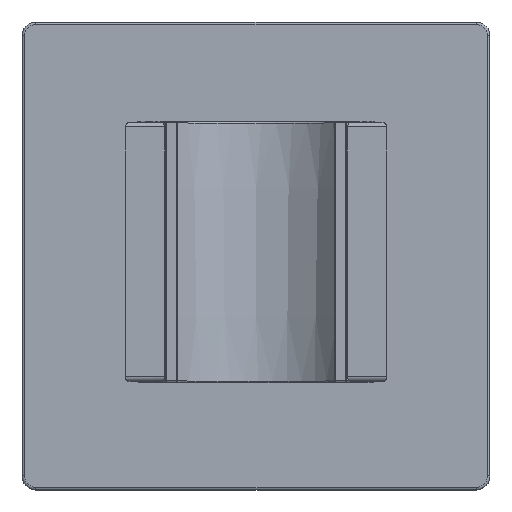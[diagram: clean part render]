
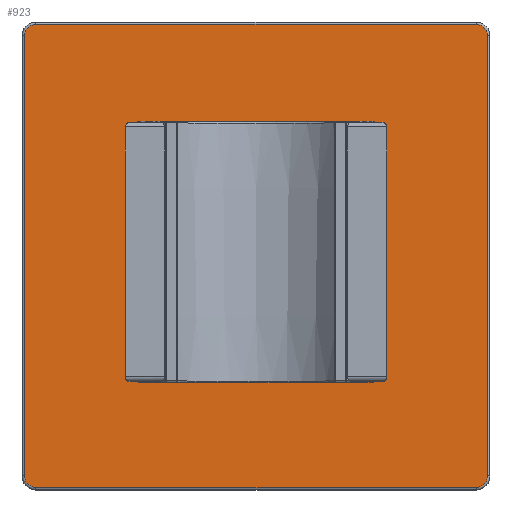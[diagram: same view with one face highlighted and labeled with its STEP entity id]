
A CAD part, top view. The second image highlights one B-rep face of the part: STEP entity #923.
In plain terms, the highlighted planar face has unit normal (0, 0, 1).
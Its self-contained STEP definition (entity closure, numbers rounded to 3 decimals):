
#93=FACE_BOUND('',#161,.T.);
#95=FACE_OUTER_BOUND('',#160,.T.);
#160=EDGE_LOOP('',(#632,#633,#634,#635,#636,#637,#638,#639));
#161=EDGE_LOOP('',(#640,#641,#642,#643,#644,#645,#646,#647));
#229=CIRCLE('',#1008,1.25);
#230=CIRCLE('',#1009,1.25);
#231=CIRCLE('',#1010,1.25);
#232=CIRCLE('',#1011,1.25);
#233=CIRCLE('',#1012,0.5);
#234=CIRCLE('',#1013,0.5);
#235=CIRCLE('',#1014,0.5);
#236=CIRCLE('',#1015,0.5);
#272=LINE('',#1408,#340);
#273=LINE('',#1412,#341);
#274=LINE('',#1416,#342);
#275=LINE('',#1420,#343);
#276=LINE('',#1424,#344);
#277=LINE('',#1428,#345);
#278=LINE('',#1432,#346);
#279=LINE('',#1436,#347);
#340=VECTOR('',#1125,10.);
#341=VECTOR('',#1128,10.);
#342=VECTOR('',#1131,10.);
#343=VECTOR('',#1134,10.);
#344=VECTOR('',#1137,10.);
#345=VECTOR('',#1140,10.);
#346=VECTOR('',#1143,10.);
#347=VECTOR('',#1146,10.);
#412=VERTEX_POINT('',#1406);
#413=VERTEX_POINT('',#1407);
#414=VERTEX_POINT('',#1409);
#415=VERTEX_POINT('',#1411);
#416=VERTEX_POINT('',#1413);
#417=VERTEX_POINT('',#1415);
#418=VERTEX_POINT('',#1417);
#419=VERTEX_POINT('',#1419);
#420=VERTEX_POINT('',#1422);
#421=VERTEX_POINT('',#1423);
#422=VERTEX_POINT('',#1425);
#423=VERTEX_POINT('',#1427);
#424=VERTEX_POINT('',#1429);
#425=VERTEX_POINT('',#1431);
#426=VERTEX_POINT('',#1433);
#427=VERTEX_POINT('',#1435);
#492=EDGE_CURVE('',#412,#413,#272,.T.);
#493=EDGE_CURVE('',#413,#414,#229,.T.);
#494=EDGE_CURVE('',#414,#415,#273,.T.);
#495=EDGE_CURVE('',#415,#416,#230,.T.);
#496=EDGE_CURVE('',#416,#417,#274,.T.);
#497=EDGE_CURVE('',#417,#418,#231,.T.);
#498=EDGE_CURVE('',#418,#419,#275,.T.);
#499=EDGE_CURVE('',#419,#412,#232,.T.);
#500=EDGE_CURVE('',#420,#421,#276,.T.);
#501=EDGE_CURVE('',#422,#420,#233,.T.);
#502=EDGE_CURVE('',#423,#422,#277,.T.);
#503=EDGE_CURVE('',#424,#423,#234,.T.);
#504=EDGE_CURVE('',#425,#424,#278,.T.);
#505=EDGE_CURVE('',#426,#425,#235,.T.);
#506=EDGE_CURVE('',#427,#426,#279,.T.);
#507=EDGE_CURVE('',#421,#427,#236,.T.);
#632=ORIENTED_EDGE('',*,*,#492,.T.);
#633=ORIENTED_EDGE('',*,*,#493,.T.);
#634=ORIENTED_EDGE('',*,*,#494,.T.);
#635=ORIENTED_EDGE('',*,*,#495,.T.);
#636=ORIENTED_EDGE('',*,*,#496,.T.);
#637=ORIENTED_EDGE('',*,*,#497,.T.);
#638=ORIENTED_EDGE('',*,*,#498,.T.);
#639=ORIENTED_EDGE('',*,*,#499,.T.);
#640=ORIENTED_EDGE('',*,*,#500,.F.);
#641=ORIENTED_EDGE('',*,*,#501,.F.);
#642=ORIENTED_EDGE('',*,*,#502,.F.);
#643=ORIENTED_EDGE('',*,*,#503,.F.);
#644=ORIENTED_EDGE('',*,*,#504,.F.);
#645=ORIENTED_EDGE('',*,*,#505,.F.);
#646=ORIENTED_EDGE('',*,*,#506,.F.);
#647=ORIENTED_EDGE('',*,*,#507,.F.);
#905=PLANE('',#1007);
#923=ADVANCED_FACE('',(#95,#93),#905,.T.);
#1007=AXIS2_PLACEMENT_3D('',#1405,#1123,#1124);
#1008=AXIS2_PLACEMENT_3D('',#1410,#1126,#1127);
#1009=AXIS2_PLACEMENT_3D('',#1414,#1129,#1130);
#1010=AXIS2_PLACEMENT_3D('',#1418,#1132,#1133);
#1011=AXIS2_PLACEMENT_3D('',#1421,#1135,#1136);
#1012=AXIS2_PLACEMENT_3D('',#1426,#1138,#1139);
#1013=AXIS2_PLACEMENT_3D('',#1430,#1141,#1142);
#1014=AXIS2_PLACEMENT_3D('',#1434,#1144,#1145);
#1015=AXIS2_PLACEMENT_3D('',#1437,#1147,#1148);
#1123=DIRECTION('center_axis',(0.,0.,1.));
#1124=DIRECTION('ref_axis',(1.,0.,0.));
#1125=DIRECTION('',(0.,-1.,0.));
#1126=DIRECTION('center_axis',(0.,0.,1.));
#1127=DIRECTION('ref_axis',(0.,-1.,0.));
#1128=DIRECTION('',(1.,0.,0.));
#1129=DIRECTION('center_axis',(0.,0.,1.));
#1130=DIRECTION('ref_axis',(1.,0.,0.));
#1131=DIRECTION('',(0.,1.,0.));
#1132=DIRECTION('center_axis',(0.,0.,1.));
#1133=DIRECTION('ref_axis',(0.,1.,0.));
#1134=DIRECTION('',(-1.,0.,0.));
#1135=DIRECTION('center_axis',(0.,0.,1.));
#1136=DIRECTION('ref_axis',(-1.,0.,0.));
#1137=DIRECTION('',(1.,0.,0.));
#1138=DIRECTION('center_axis',(0.,0.,
1.));
#1139=DIRECTION('ref_axis',(0.,-1.,0.));
#1140=DIRECTION('',(0.,-1.,0.));
#1141=DIRECTION('center_axis',(0.,0.,
1.));
#1142=DIRECTION('ref_axis',(-1.,0.,0.));
#1143=DIRECTION('',(-1.,0.,0.));
#1144=DIRECTION('center_axis',(0.,0.,
1.));
#1145=DIRECTION('ref_axis',(0.,1.,0.));
#1146=DIRECTION('',(0.,1.,0.));
#1147=DIRECTION('center_axis',(0.,0.,1.));
#1148=DIRECTION('ref_axis',(1.,0.,0.));
#1405=CARTESIAN_POINT('Origin',(0.,-27.775,8.9));
#1406=CARTESIAN_POINT('',(-25.,23.75,8.9));
#1407=CARTESIAN_POINT('',(-25.,-23.75,8.9));
#1408=CARTESIAN_POINT('',(-25.,23.75,8.9));
#1409=CARTESIAN_POINT('',(-23.75,-25.,8.9));
#1410=CARTESIAN_POINT('Origin',(-23.75,-23.75,8.9));
#1411=CARTESIAN_POINT('',(23.75,-25.,8.9));
#1412=CARTESIAN_POINT('',(-23.75,-25.,8.9));
#1413=CARTESIAN_POINT('',(25.,-23.75,8.9));
#1414=CARTESIAN_POINT('Origin',(23.75,-23.75,8.9));
#1415=CARTESIAN_POINT('',(25.,23.75,8.9));
#1416=CARTESIAN_POINT('',(25.,-23.75,8.9));
#1417=CARTESIAN_POINT('',(23.75,25.,8.9));
#1418=CARTESIAN_POINT('Origin',(23.75,23.75,8.9));
#1419=CARTESIAN_POINT('',(-23.75,25.,8.9));
#1420=CARTESIAN_POINT('',(23.75,25.,8.9));
#1421=CARTESIAN_POINT('Origin',(-23.75,23.75,8.9));
#1422=CARTESIAN_POINT('',(-13.6,-13.6,8.9));
#1423=CARTESIAN_POINT('',(13.6,-13.6,8.9));
#1424=CARTESIAN_POINT('',(-13.6,-13.6,8.9));
#1425=CARTESIAN_POINT('',(-14.1,-13.1,8.9));
#1426=CARTESIAN_POINT('Origin',(-13.6,-13.1,8.9));
#1427=CARTESIAN_POINT('',(-14.1,13.85,8.9));
#1428=CARTESIAN_POINT('',(-14.1,13.85,8.9));
#1429=CARTESIAN_POINT('',(-13.6,14.35,8.9));
#1430=CARTESIAN_POINT('Origin',(-13.6,13.85,8.9));
#1431=CARTESIAN_POINT('',(13.6,14.35,8.9));
#1432=CARTESIAN_POINT('',(13.6,14.35,8.9));
#1433=CARTESIAN_POINT('',(14.1,13.85,8.9));
#1434=CARTESIAN_POINT('Origin',(13.6,13.85,8.9));
#1435=CARTESIAN_POINT('',(14.1,-13.1,8.9));
#1436=CARTESIAN_POINT('',(14.1,-13.1,8.9));
#1437=CARTESIAN_POINT('Origin',(13.6,-13.1,8.9));
